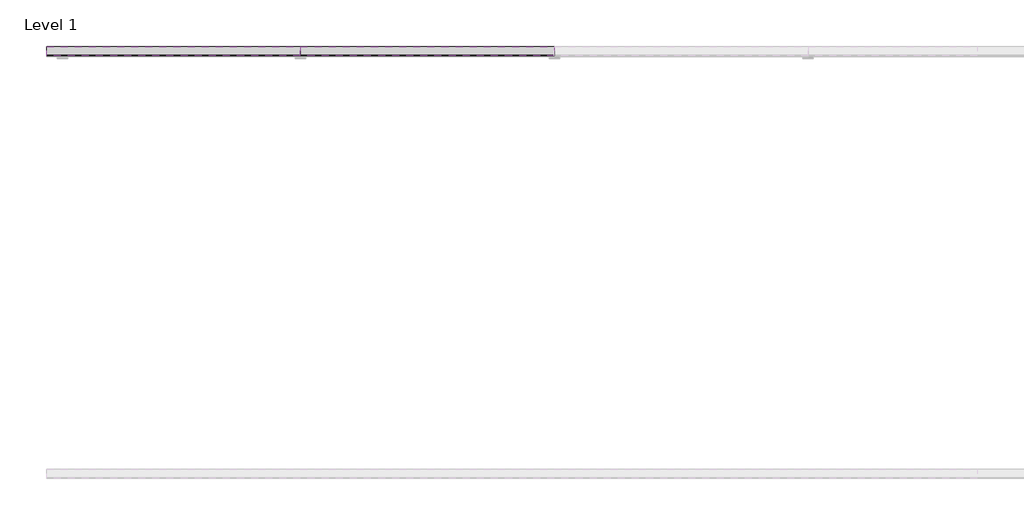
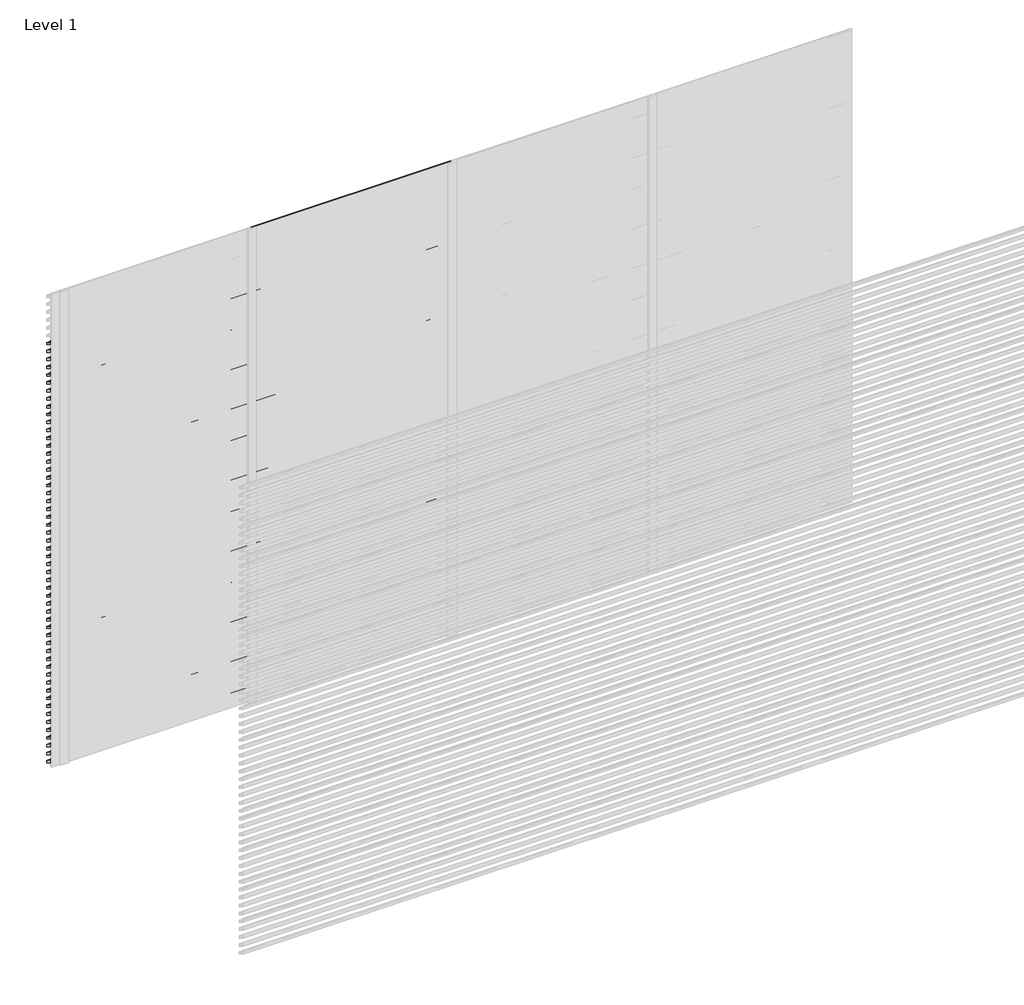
# One storey, part 14 of 16: 99 proxies.
"""IFC4 building model written with IfcOpenShell, lengths in millimetres."""

from ifc_helpers import new_model, si_unit, frame, origin, place, context, project, spatial, polyline, outline, extrude, element, save

model = new_model("IFC4")

# Units and contexts
model_context = context("Model", 3, world=origin())
ifc_project = project(units=[si_unit("LENGTHUNIT", "METRE", prefix="MILLI")], contexts=[model_context])

# Site, building, storey
site = spatial("IfcSite", under=ifc_project)
building = spatial("IfcBuilding", under=site)
storey = spatial("IfcBuildingStorey", under=building, Name="Level 1", Elevation=0.0)

# Proxies
placement = place(None, origin())
element("IfcBuildingElementProxy", 1, Name="Wall Sweeps", at=placement, inside=storey, context=model_context, shape_type="SweptSolid", body=[
    extrude(outline(polyline([(5.0, 2700.0), (5.0, 2689.6352854), (46.0, 2665.0), (46.0, 2650.0), (3.0, 2675.8370066), (3.0, 2700.0), (5.0, 2700.0)])), frame((0.0, 0.0, 0.0), z_axis=(1.0, 0.0, 0.0), x_axis=(0.0, 1.0, 0.0)), (0.0, 0.0, 1.0), 1200.0),
])
element("IfcBuildingElementProxy", 2, Name="Wall Sweeps", at=placement, inside=storey, context=model_context, shape_type="SweptSolid", body=[
    extrude(outline(polyline([(5.0, 2650.0), (5.0, 2639.6352854), (46.0, 2615.0), (46.0, 2600.0), (3.0, 2625.8370066), (3.0, 2650.0), (5.0, 2650.0)])), frame((0.0, 0.0, 0.0), z_axis=(1.0, 0.0, 0.0), x_axis=(0.0, 1.0, 0.0)), (0.0, 0.0, 1.0), 1200.0),
])
element("IfcBuildingElementProxy", 3, Name="Wall Sweeps", at=placement, inside=storey, context=model_context, shape_type="SweptSolid", body=[
    extrude(outline(polyline([(5.0, 2600.0), (5.0, 2589.6352854), (46.0, 2565.0), (46.0, 2550.0), (3.0, 2575.8370066), (3.0, 2600.0), (5.0, 2600.0)])), frame((0.0, 0.0, 0.0), z_axis=(1.0, 0.0, 0.0), x_axis=(0.0, 1.0, 0.0)), (0.0, 0.0, 1.0), 1200.0),
])
element("IfcBuildingElementProxy", 4, Name="Wall Sweeps", at=placement, inside=storey, context=model_context, shape_type="SweptSolid", body=[
    extrude(outline(polyline([(5.0, 2550.0), (5.0, 2539.6352854), (46.0, 2515.0), (46.0, 2500.0), (3.0, 2525.8370066), (3.0, 2550.0), (5.0, 2550.0)])), frame((0.0, 0.0, 0.0), z_axis=(1.0, 0.0, 0.0), x_axis=(0.0, 1.0, 0.0)), (0.0, 0.0, 1.0), 1200.0),
])
element("IfcBuildingElementProxy", 5, Name="Wall Sweeps", at=placement, inside=storey, context=model_context, shape_type="SweptSolid", body=[
    extrude(outline(polyline([(5.0, 2500.0), (5.0, 2489.6352854), (46.0, 2465.0), (46.0, 2450.0), (3.0, 2475.8370066), (3.0, 2500.0), (5.0, 2500.0)])), frame((0.0, 0.0, 0.0), z_axis=(1.0, 0.0, 0.0), x_axis=(0.0, 1.0, 0.0)), (0.0, 0.0, 1.0), 1200.0),
])
element("IfcBuildingElementProxy", 6, Name="Wall Sweeps", at=placement, inside=storey, context=model_context, shape_type="SweptSolid", body=[
    extrude(outline(polyline([(5.0, 2450.0), (5.0, 2439.6352854), (46.0, 2415.0), (46.0, 2400.0), (3.0, 2425.8370066), (3.0, 2450.0), (5.0, 2450.0)])), frame((0.0, 0.0, 0.0), z_axis=(1.0, 0.0, 0.0), x_axis=(0.0, 1.0, 0.0)), (0.0, 0.0, 1.0), 1200.0),
])
element("IfcBuildingElementProxy", 7, Name="Wall Sweeps", at=placement, inside=storey, context=model_context, shape_type="SweptSolid", body=[
    extrude(outline(polyline([(5.0, 2400.0), (5.0, 2389.6352854), (46.0, 2365.0), (46.0, 2350.0), (3.0, 2375.8370066), (3.0, 2400.0), (5.0, 2400.0)])), frame((0.0, 0.0, 0.0), z_axis=(1.0, 0.0, 0.0), x_axis=(0.0, 1.0, 0.0)), (0.0, 0.0, 1.0), 1200.0),
])
element("IfcBuildingElementProxy", 8, Name="Wall Sweeps", at=placement, inside=storey, context=model_context, shape_type="SweptSolid", body=[
    extrude(outline(polyline([(5.0, 2350.0), (5.0, 2339.6352854), (46.0, 2315.0), (46.0, 2300.0), (3.0, 2325.8370066), (3.0, 2350.0), (5.0, 2350.0)])), frame((0.0, 0.0, 0.0), z_axis=(1.0, 0.0, 0.0), x_axis=(0.0, 1.0, 0.0)), (0.0, 0.0, 1.0), 1200.0),
])
element("IfcBuildingElementProxy", 9, Name="Wall Sweeps", at=placement, inside=storey, context=model_context, shape_type="SweptSolid", body=[
    extrude(outline(polyline([(5.0, 2300.0), (5.0, 2289.6352854), (46.0, 2265.0), (46.0, 2250.0), (3.0, 2275.8370066), (3.0, 2300.0), (5.0, 2300.0)])), frame((0.0, 0.0, 0.0), z_axis=(1.0, 0.0, 0.0), x_axis=(0.0, 1.0, 0.0)), (0.0, 0.0, 1.0), 1200.0),
])
element("IfcBuildingElementProxy", 10, Name="Wall Sweeps", at=placement, inside=storey, context=model_context, shape_type="SweptSolid", body=[
    extrude(outline(polyline([(5.0, 2250.0), (5.0, 2239.6352854), (46.0, 2215.0), (46.0, 2200.0), (3.0, 2225.8370066), (3.0, 2250.0), (5.0, 2250.0)])), frame((0.0, 0.0, 0.0), z_axis=(1.0, 0.0, 0.0), x_axis=(0.0, 1.0, 0.0)), (0.0, 0.0, 1.0), 1200.0),
])
element("IfcBuildingElementProxy", 11, Name="Wall Sweeps", at=placement, inside=storey, context=model_context, shape_type="SweptSolid", body=[
    extrude(outline(polyline([(5.0, 2200.0), (5.0, 2189.6352854), (46.0, 2165.0), (46.0, 2150.0), (3.0, 2175.8370066), (3.0, 2200.0), (5.0, 2200.0)])), frame((0.0, 0.0, 0.0), z_axis=(1.0, 0.0, 0.0), x_axis=(0.0, 1.0, 0.0)), (0.0, 0.0, 1.0), 1200.0),
])
element("IfcBuildingElementProxy", 12, Name="Wall Sweeps", at=placement, inside=storey, context=model_context, shape_type="SweptSolid", body=[
    extrude(outline(polyline([(5.0, 2150.0), (5.0, 2139.6352854), (46.0, 2115.0), (46.0, 2100.0), (3.0, 2125.8370066), (3.0, 2150.0), (5.0, 2150.0)])), frame((0.0, 0.0, 0.0), z_axis=(1.0, 0.0, 0.0), x_axis=(0.0, 1.0, 0.0)), (0.0, 0.0, 1.0), 1200.0),
])
element("IfcBuildingElementProxy", 13, Name="Wall Sweeps", at=placement, inside=storey, context=model_context, shape_type="SweptSolid", body=[
    extrude(outline(polyline([(5.0, 2100.0), (5.0, 2089.6352854), (46.0, 2065.0), (46.0, 2050.0), (3.0, 2075.8370066), (3.0, 2100.0), (5.0, 2100.0)])), frame((0.0, 0.0, 0.0), z_axis=(1.0, 0.0, 0.0), x_axis=(0.0, 1.0, 0.0)), (0.0, 0.0, 1.0), 1200.0),
])
element("IfcBuildingElementProxy", 14, Name="Wall Sweeps", at=placement, inside=storey, context=model_context, shape_type="SweptSolid", body=[
    extrude(outline(polyline([(5.0, 2050.0), (5.0, 2039.6352854), (46.0, 2015.0), (46.0, 2000.0), (3.0, 2025.8370066), (3.0, 2050.0), (5.0, 2050.0)])), frame((0.0, 0.0, 0.0), z_axis=(1.0, 0.0, 0.0), x_axis=(0.0, 1.0, 0.0)), (0.0, 0.0, 1.0), 1200.0),
])
element("IfcBuildingElementProxy", 15, Name="Wall Sweeps", at=placement, inside=storey, context=model_context, shape_type="SweptSolid", body=[
    extrude(outline(polyline([(5.0, 2000.0), (5.0, 1989.6352854), (46.0, 1965.0), (46.0, 1950.0), (3.0, 1975.8370066), (3.0, 2000.0), (5.0, 2000.0)])), frame((0.0, 0.0, 0.0), z_axis=(1.0, 0.0, 0.0), x_axis=(0.0, 1.0, 0.0)), (0.0, 0.0, 1.0), 1200.0),
])
element("IfcBuildingElementProxy", 16, Name="Wall Sweeps", at=placement, inside=storey, context=model_context, shape_type="SweptSolid", body=[
    extrude(outline(polyline([(5.0, 1950.0), (5.0, 1939.6352854), (46.0, 1915.0), (46.0, 1900.0), (3.0, 1925.8370066), (3.0, 1950.0), (5.0, 1950.0)])), frame((0.0, 0.0, 0.0), z_axis=(1.0, 0.0, 0.0), x_axis=(0.0, 1.0, 0.0)), (0.0, 0.0, 1.0), 1200.0),
])
element("IfcBuildingElementProxy", 17, Name="Wall Sweeps", at=placement, inside=storey, context=model_context, shape_type="SweptSolid", body=[
    extrude(outline(polyline([(5.0, 1900.0), (5.0, 1889.6352854), (46.0, 1865.0), (46.0, 1850.0), (3.0, 1875.8370066), (3.0, 1900.0), (5.0, 1900.0)])), frame((0.0, 0.0, 0.0), z_axis=(1.0, 0.0, 0.0), x_axis=(0.0, 1.0, 0.0)), (0.0, 0.0, 1.0), 1200.0),
])
element("IfcBuildingElementProxy", 18, Name="Wall Sweeps", at=placement, inside=storey, context=model_context, shape_type="SweptSolid", body=[
    extrude(outline(polyline([(5.0, 1850.0), (5.0, 1839.6352854), (46.0, 1815.0), (46.0, 1800.0), (3.0, 1825.8370066), (3.0, 1850.0), (5.0, 1850.0)])), frame((0.0, 0.0, 0.0), z_axis=(1.0, 0.0, 0.0), x_axis=(0.0, 1.0, 0.0)), (0.0, 0.0, 1.0), 1200.0),
])
element("IfcBuildingElementProxy", 19, Name="Wall Sweeps", at=placement, inside=storey, context=model_context, shape_type="SweptSolid", body=[
    extrude(outline(polyline([(5.0, 1800.0), (5.0, 1789.6352854), (46.0, 1765.0), (46.0, 1750.0), (3.0, 1775.8370066), (3.0, 1800.0), (5.0, 1800.0)])), frame((0.0, 0.0, 0.0), z_axis=(1.0, 0.0, 0.0), x_axis=(0.0, 1.0, 0.0)), (0.0, 0.0, 1.0), 1200.0),
])
element("IfcBuildingElementProxy", 20, Name="Wall Sweeps", at=placement, inside=storey, context=model_context, shape_type="SweptSolid", body=[
    extrude(outline(polyline([(5.0, 1750.0), (5.0, 1739.6352854), (46.0, 1715.0), (46.0, 1700.0), (3.0, 1725.8370066), (3.0, 1750.0), (5.0, 1750.0)])), frame((0.0, 0.0, 0.0), z_axis=(1.0, 0.0, 0.0), x_axis=(0.0, 1.0, 0.0)), (0.0, 0.0, 1.0), 1200.0),
])
element("IfcBuildingElementProxy", 21, Name="Wall Sweeps", at=placement, inside=storey, context=model_context, shape_type="SweptSolid", body=[
    extrude(outline(polyline([(5.0, 1700.0), (5.0, 1689.6352854), (46.0, 1665.0), (46.0, 1650.0), (3.0, 1675.8370066), (3.0, 1700.0), (5.0, 1700.0)])), frame((0.0, 0.0, 0.0), z_axis=(1.0, 0.0, 0.0), x_axis=(0.0, 1.0, 0.0)), (0.0, 0.0, 1.0), 1200.0),
])
element("IfcBuildingElementProxy", 22, Name="Wall Sweeps", at=placement, inside=storey, context=model_context, shape_type="SweptSolid", body=[
    extrude(outline(polyline([(5.0, 1650.0), (5.0, 1639.6352854), (46.0, 1615.0), (46.0, 1600.0), (3.0, 1625.8370066), (3.0, 1650.0), (5.0, 1650.0)])), frame((0.0, 0.0, 0.0), z_axis=(1.0, 0.0, 0.0), x_axis=(0.0, 1.0, 0.0)), (0.0, 0.0, 1.0), 1200.0),
])
element("IfcBuildingElementProxy", 23, Name="Wall Sweeps", at=placement, inside=storey, context=model_context, shape_type="SweptSolid", body=[
    extrude(outline(polyline([(5.0, 1600.0), (5.0, 1589.6352854), (46.0, 1565.0), (46.0, 1550.0), (3.0, 1575.8370066), (3.0, 1600.0), (5.0, 1600.0)])), frame((0.0, 0.0, 0.0), z_axis=(1.0, 0.0, 0.0), x_axis=(0.0, 1.0, 0.0)), (0.0, 0.0, 1.0), 1200.0),
])
element("IfcBuildingElementProxy", 24, Name="Wall Sweeps", at=placement, inside=storey, context=model_context, shape_type="SweptSolid", body=[
    extrude(outline(polyline([(5.0, 1550.0), (5.0, 1539.6352854), (46.0, 1515.0), (46.0, 1500.0), (3.0, 1525.8370066), (3.0, 1550.0), (5.0, 1550.0)])), frame((0.0, 0.0, 0.0), z_axis=(1.0, 0.0, 0.0), x_axis=(0.0, 1.0, 0.0)), (0.0, 0.0, 1.0), 1200.0),
])
element("IfcBuildingElementProxy", 25, Name="Wall Sweeps", at=placement, inside=storey, context=model_context, shape_type="SweptSolid", body=[
    extrude(outline(polyline([(5.0, 1500.0), (5.0, 1489.6352854), (46.0, 1465.0), (46.0, 1450.0), (3.0, 1475.8370066), (3.0, 1500.0), (5.0, 1500.0)])), frame((0.0, 0.0, 0.0), z_axis=(1.0, 0.0, 0.0), x_axis=(0.0, 1.0, 0.0)), (0.0, 0.0, 1.0), 1200.0),
])
element("IfcBuildingElementProxy", 26, Name="Wall Sweeps", at=placement, inside=storey, context=model_context, shape_type="SweptSolid", body=[
    extrude(outline(polyline([(5.0, 1450.0), (5.0, 1439.6352854), (46.0, 1415.0), (46.0, 1400.0), (3.0, 1425.8370066), (3.0, 1450.0), (5.0, 1450.0)])), frame((0.0, 0.0, 0.0), z_axis=(1.0, 0.0, 0.0), x_axis=(0.0, 1.0, 0.0)), (0.0, 0.0, 1.0), 1200.0),
])
element("IfcBuildingElementProxy", 27, Name="Wall Sweeps", at=placement, inside=storey, context=model_context, shape_type="SweptSolid", body=[
    extrude(outline(polyline([(5.0, 1400.0), (5.0, 1389.6352854), (46.0, 1365.0), (46.0, 1350.0), (3.0, 1375.8370066), (3.0, 1400.0), (5.0, 1400.0)])), frame((0.0, 0.0, 0.0), z_axis=(1.0, 0.0, 0.0), x_axis=(0.0, 1.0, 0.0)), (0.0, 0.0, 1.0), 1200.0),
])
element("IfcBuildingElementProxy", 28, Name="Wall Sweeps", at=placement, inside=storey, context=model_context, shape_type="SweptSolid", body=[
    extrude(outline(polyline([(5.0, 1350.0), (5.0, 1339.6352854), (46.0, 1315.0), (46.0, 1300.0), (3.0, 1325.8370066), (3.0, 1350.0), (5.0, 1350.0)])), frame((0.0, 0.0, 0.0), z_axis=(1.0, 0.0, 0.0), x_axis=(0.0, 1.0, 0.0)), (0.0, 0.0, 1.0), 1200.0),
])
element("IfcBuildingElementProxy", 29, Name="Wall Sweeps", at=placement, inside=storey, context=model_context, shape_type="SweptSolid", body=[
    extrude(outline(polyline([(5.0, 1300.0), (5.0, 1289.6352854), (46.0, 1265.0), (46.0, 1250.0), (3.0, 1275.8370066), (3.0, 1300.0), (5.0, 1300.0)])), frame((0.0, 0.0, 0.0), z_axis=(1.0, 0.0, 0.0), x_axis=(0.0, 1.0, 0.0)), (0.0, 0.0, 1.0), 1200.0),
])
element("IfcBuildingElementProxy", 30, Name="Wall Sweeps", at=placement, inside=storey, context=model_context, shape_type="SweptSolid", body=[
    extrude(outline(polyline([(5.0, 1250.0), (5.0, 1239.6352854), (46.0, 1215.0), (46.0, 1200.0), (3.0, 1225.8370066), (3.0, 1250.0), (5.0, 1250.0)])), frame((0.0, 0.0, 0.0), z_axis=(1.0, 0.0, 0.0), x_axis=(0.0, 1.0, 0.0)), (0.0, 0.0, 1.0), 1200.0),
])
element("IfcBuildingElementProxy", 31, Name="Wall Sweeps", at=placement, inside=storey, context=model_context, shape_type="SweptSolid", body=[
    extrude(outline(polyline([(5.0, 1200.0), (5.0, 1189.6352854), (46.0, 1165.0), (46.0, 1150.0), (3.0, 1175.8370066), (3.0, 1200.0), (5.0, 1200.0)])), frame((0.0, 0.0, 0.0), z_axis=(1.0, 0.0, 0.0), x_axis=(0.0, 1.0, 0.0)), (0.0, 0.0, 1.0), 1200.0),
])
element("IfcBuildingElementProxy", 32, Name="Wall Sweeps", at=placement, inside=storey, context=model_context, shape_type="SweptSolid", body=[
    extrude(outline(polyline([(5.0, 1150.0), (5.0, 1139.6352854), (46.0, 1115.0), (46.0, 1100.0), (3.0, 1125.8370066), (3.0, 1150.0), (5.0, 1150.0)])), frame((0.0, 0.0, 0.0), z_axis=(1.0, 0.0, 0.0), x_axis=(0.0, 1.0, 0.0)), (0.0, 0.0, 1.0), 1200.0),
])
element("IfcBuildingElementProxy", 33, Name="Wall Sweeps", at=placement, inside=storey, context=model_context, shape_type="SweptSolid", body=[
    extrude(outline(polyline([(5.0, 1100.0), (5.0, 1089.6352854), (46.0, 1065.0), (46.0, 1050.0), (3.0, 1075.8370066), (3.0, 1100.0), (5.0, 1100.0)])), frame((0.0, 0.0, 0.0), z_axis=(1.0, 0.0, 0.0), x_axis=(0.0, 1.0, 0.0)), (0.0, 0.0, 1.0), 1200.0),
])
element("IfcBuildingElementProxy", 34, Name="Wall Sweeps", at=placement, inside=storey, context=model_context, shape_type="SweptSolid", body=[
    extrude(outline(polyline([(5.0, 1050.0), (5.0, 1039.6352854), (46.0, 1015.0), (46.0, 1000.0), (3.0, 1025.8370066), (3.0, 1050.0), (5.0, 1050.0)])), frame((0.0, 0.0, 0.0), z_axis=(1.0, 0.0, 0.0), x_axis=(0.0, 1.0, 0.0)), (0.0, 0.0, 1.0), 1200.0),
])
element("IfcBuildingElementProxy", 35, Name="Wall Sweeps", at=placement, inside=storey, context=model_context, shape_type="SweptSolid", body=[
    extrude(outline(polyline([(5.0, 1000.0), (5.0, 989.6352854), (46.0, 965.0), (46.0, 950.0), (3.0, 975.8370066), (3.0, 1000.0), (5.0, 1000.0)])), frame((0.0, 0.0, 0.0), z_axis=(1.0, 0.0, 0.0), x_axis=(0.0, 1.0, 0.0)), (0.0, 0.0, 1.0), 1200.0),
])
element("IfcBuildingElementProxy", 36, Name="Wall Sweeps", at=placement, inside=storey, context=model_context, shape_type="SweptSolid", body=[
    extrude(outline(polyline([(5.0, 950.0), (5.0, 939.6352854), (46.0, 915.0), (46.0, 900.0), (3.0, 925.8370066), (3.0, 950.0), (5.0, 950.0)])), frame((0.0, 0.0, 0.0), z_axis=(1.0, 0.0, 0.0), x_axis=(0.0, 1.0, 0.0)), (0.0, 0.0, 1.0), 1200.0),
])
element("IfcBuildingElementProxy", 37, Name="Wall Sweeps", at=placement, inside=storey, context=model_context, shape_type="SweptSolid", body=[
    extrude(outline(polyline([(5.0, 900.0), (5.0, 889.6352854), (46.0, 865.0), (46.0, 850.0), (3.0, 875.8370066), (3.0, 900.0), (5.0, 900.0)])), frame((0.0, 0.0, 0.0), z_axis=(1.0, 0.0, 0.0), x_axis=(0.0, 1.0, 0.0)), (0.0, 0.0, 1.0), 1200.0),
])
element("IfcBuildingElementProxy", 38, Name="Wall Sweeps", at=placement, inside=storey, context=model_context, shape_type="SweptSolid", body=[
    extrude(outline(polyline([(5.0, 850.0), (5.0, 839.6352854), (46.0, 815.0), (46.0, 800.0), (3.0, 825.8370066), (3.0, 850.0), (5.0, 850.0)])), frame((0.0, 0.0, 0.0), z_axis=(1.0, 0.0, 0.0), x_axis=(0.0, 1.0, 0.0)), (0.0, 0.0, 1.0), 1200.0),
])
element("IfcBuildingElementProxy", 39, Name="Wall Sweeps", at=placement, inside=storey, context=model_context, shape_type="SweptSolid", body=[
    extrude(outline(polyline([(5.0, 800.0), (5.0, 789.6352854), (46.0, 765.0), (46.0, 750.0), (3.0, 775.8370066), (3.0, 800.0), (5.0, 800.0)])), frame((0.0, 0.0, 0.0), z_axis=(1.0, 0.0, 0.0), x_axis=(0.0, 1.0, 0.0)), (0.0, 0.0, 1.0), 1200.0),
])
element("IfcBuildingElementProxy", 40, Name="Wall Sweeps", at=placement, inside=storey, context=model_context, shape_type="SweptSolid", body=[
    extrude(outline(polyline([(5.0, 750.0), (5.0, 739.6352854), (46.0, 715.0), (46.0, 700.0), (3.0, 725.8370066), (3.0, 750.0), (5.0, 750.0)])), frame((0.0, 0.0, 0.0), z_axis=(1.0, 0.0, 0.0), x_axis=(0.0, 1.0, 0.0)), (0.0, 0.0, 1.0), 1200.0),
])
element("IfcBuildingElementProxy", 41, Name="Wall Sweeps", at=placement, inside=storey, context=model_context, shape_type="SweptSolid", body=[
    extrude(outline(polyline([(5.0, 700.0), (5.0, 689.6352854), (46.0, 665.0), (46.0, 650.0), (3.0, 675.8370066), (3.0, 700.0), (5.0, 700.0)])), frame((0.0, 0.0, 0.0), z_axis=(1.0, 0.0, 0.0), x_axis=(0.0, 1.0, 0.0)), (0.0, 0.0, 1.0), 1200.0),
])
element("IfcBuildingElementProxy", 42, Name="Wall Sweeps", at=placement, inside=storey, context=model_context, shape_type="SweptSolid", body=[
    extrude(outline(polyline([(5.0, 650.0), (5.0, 639.6352854), (46.0, 615.0), (46.0, 600.0), (3.0, 625.8370066), (3.0, 650.0), (5.0, 650.0)])), frame((0.0, 0.0, 0.0), z_axis=(1.0, 0.0, 0.0), x_axis=(0.0, 1.0, 0.0)), (0.0, 0.0, 1.0), 1200.0),
])
element("IfcBuildingElementProxy", 43, Name="Wall Sweeps", at=placement, inside=storey, context=model_context, shape_type="SweptSolid", body=[
    extrude(outline(polyline([(5.0, 600.0), (5.0, 589.6352854), (46.0, 565.0), (46.0, 550.0), (3.0, 575.8370066), (3.0, 600.0), (5.0, 600.0)])), frame((0.0, 0.0, 0.0), z_axis=(1.0, 0.0, 0.0), x_axis=(0.0, 1.0, 0.0)), (0.0, 0.0, 1.0), 1200.0),
])
element("IfcBuildingElementProxy", 44, Name="Wall Sweeps", at=placement, inside=storey, context=model_context, shape_type="SweptSolid", body=[
    extrude(outline(polyline([(5.0, 550.0), (5.0, 539.6352854), (46.0, 515.0), (46.0, 500.0), (3.0, 525.8370066), (3.0, 550.0), (5.0, 550.0)])), frame((0.0, 0.0, 0.0), z_axis=(1.0, 0.0, 0.0), x_axis=(0.0, 1.0, 0.0)), (0.0, 0.0, 1.0), 1200.0),
])
element("IfcBuildingElementProxy", 45, Name="Wall Sweeps", at=placement, inside=storey, context=model_context, shape_type="SweptSolid", body=[
    extrude(outline(polyline([(5.0, 500.0), (5.0, 489.6352854), (46.0, 465.0), (46.0, 450.0), (3.0, 475.8370066), (3.0, 500.0), (5.0, 500.0)])), frame((0.0, 0.0, 0.0), z_axis=(1.0, 0.0, 0.0), x_axis=(0.0, 1.0, 0.0)), (0.0, 0.0, 1.0), 1200.0),
])
element("IfcBuildingElementProxy", 46, Name="Wall Sweeps", at=placement, inside=storey, context=model_context, shape_type="SweptSolid", body=[
    extrude(outline(polyline([(5.0, 450.0), (5.0, 439.6352854), (46.0, 415.0), (46.0, 400.0), (3.0, 425.8370066), (3.0, 450.0), (5.0, 450.0)])), frame((0.0, 0.0, 0.0), z_axis=(1.0, 0.0, 0.0), x_axis=(0.0, 1.0, 0.0)), (0.0, 0.0, 1.0), 1200.0),
])
element("IfcBuildingElementProxy", 47, Name="Wall Sweeps", at=placement, inside=storey, context=model_context, shape_type="SweptSolid", body=[
    extrude(outline(polyline([(5.0, 400.0), (5.0, 389.6352854), (46.0, 365.0), (46.0, 350.0), (3.0, 375.8370066), (3.0, 400.0), (5.0, 400.0)])), frame((0.0, 0.0, 0.0), z_axis=(1.0, 0.0, 0.0), x_axis=(0.0, 1.0, 0.0)), (0.0, 0.0, 1.0), 1200.0),
])
element("IfcBuildingElementProxy", 48, Name="Wall Sweeps", at=placement, inside=storey, context=model_context, shape_type="SweptSolid", body=[
    extrude(outline(polyline([(5.0, 350.0), (5.0, 339.6352854), (46.0, 315.0), (46.0, 300.0), (3.0, 325.8370066), (3.0, 350.0), (5.0, 350.0)])), frame((0.0, 0.0, 0.0), z_axis=(1.0, 0.0, 0.0), x_axis=(0.0, 1.0, 0.0)), (0.0, 0.0, 1.0), 1200.0),
])
element("IfcBuildingElementProxy", 49, Name="Wall Sweeps", at=placement, inside=storey, context=model_context, shape_type="SweptSolid", body=[
    extrude(outline(polyline([(5.0, 300.0), (5.0, 289.6352854), (46.0, 265.0), (46.0, 250.0), (3.0, 275.8370066), (3.0, 300.0), (5.0, 300.0)])), frame((0.0, 0.0, 0.0), z_axis=(1.0, 0.0, 0.0), x_axis=(0.0, 1.0, 0.0)), (0.0, 0.0, 1.0), 1200.0),
])
element("IfcBuildingElementProxy", 50, Name="Wall Sweeps", at=placement, inside=storey, context=model_context, shape_type="SweptSolid", body=[
    extrude(outline(polyline([(5.0, 250.0), (5.0, 239.6352854), (46.0, 215.0), (46.0, 200.0), (3.0, 225.8370066), (3.0, 250.0), (5.0, 250.0)])), frame((0.0, 0.0, 0.0), z_axis=(1.0, 0.0, 0.0), x_axis=(0.0, 1.0, 0.0)), (0.0, 0.0, 1.0), 1200.0),
])
element("IfcBuildingElementProxy", 51, Name="Wall Sweeps", at=placement, inside=storey, context=model_context, shape_type="SweptSolid", body=[
    extrude(outline(polyline([(5.0, 200.0), (5.0, 189.6352854), (46.0, 165.0), (46.0, 150.0), (3.0, 175.8370066), (3.0, 200.0), (5.0, 200.0)])), frame((0.0, 0.0, 0.0), z_axis=(1.0, 0.0, 0.0), x_axis=(0.0, 1.0, 0.0)), (0.0, 0.0, 1.0), 1200.0),
])
element("IfcBuildingElementProxy", 52, Name="Wall Sweeps", at=placement, inside=storey, context=model_context, shape_type="SweptSolid", body=[
    extrude(outline(polyline([(5.0, 150.0), (5.0, 139.6352854), (46.0, 115.0), (46.0, 100.0), (3.0, 125.8370066), (3.0, 150.0), (5.0, 150.0)])), frame((0.0, 0.0, 0.0), z_axis=(1.0, 0.0, 0.0), x_axis=(0.0, 1.0, 0.0)), (0.0, 0.0, 1.0), 1200.0),
])
element("IfcBuildingElementProxy", 53, Name="Wall Sweeps", at=placement, inside=storey, context=model_context, shape_type="SweptSolid", body=[
    extrude(outline(polyline([(5.0, 100.0), (5.0, 89.6352854), (46.0, 65.0), (46.0, 50.0), (3.0, 75.8370066), (3.0, 100.0), (5.0, 100.0)])), frame((0.0, 0.0, 0.0), z_axis=(1.0, 0.0, 0.0), x_axis=(0.0, 1.0, 0.0)), (0.0, 0.0, 1.0), 1200.0),
])
element("IfcBuildingElementProxy", 54, Name="Wall Sweeps", at=placement, inside=storey, context=model_context, shape_type="SweptSolid", body=[
    extrude(outline(polyline([(5.0, 50.0), (5.0, 39.6352854), (46.0, 15.0), (46.0, 0.0), (3.0, 25.8370066), (3.0, 50.0), (5.0, 50.0)])), frame((0.0, 0.0, 0.0), z_axis=(1.0, 0.0, 0.0), x_axis=(0.0, 1.0, 0.0)), (0.0, 0.0, 1.0), 1200.0),
])
element("IfcBuildingElementProxy", 55, Name="Wall Sweeps", at=placement, inside=storey, context=model_context, shape_type="SweptSolid", body=[
    extrude(outline(polyline([(5.0, 3000.0), (5.0, 2989.6352854), (46.0, 2965.0), (46.0, 2950.0), (3.0, 2975.8370066), (3.0, 3000.0), (5.0, 3000.0)])), frame((1200.0, 0.0, 0.0), z_axis=(1.0, 0.0, 0.0), x_axis=(0.0, 1.0, 0.0)), (0.0, 0.0, 1.0), 1200.0),
])
element("IfcBuildingElementProxy", 56, Name="Wall Sweeps", at=placement, inside=storey, context=model_context, shape_type="SweptSolid", body=[
    extrude(outline(polyline([(5.0, 2950.0), (5.0, 2939.6352854), (46.0, 2915.0), (46.0, 2900.0), (3.0, 2925.8370066), (3.0, 2950.0), (5.0, 2950.0)])), frame((1200.0, 0.0, 0.0), z_axis=(1.0, 0.0, 0.0), x_axis=(0.0, 1.0, 0.0)), (0.0, 0.0, 1.0), 1200.0),
])
element("IfcBuildingElementProxy", 57, Name="Wall Sweeps", at=placement, inside=storey, context=model_context, shape_type="SweptSolid", body=[
    extrude(outline(polyline([(5.0, 2900.0), (5.0, 2889.6352854), (46.0, 2865.0), (46.0, 2850.0), (3.0, 2875.8370066), (3.0, 2900.0), (5.0, 2900.0)])), frame((1200.0, 0.0, 0.0), z_axis=(1.0, 0.0, 0.0), x_axis=(0.0, 1.0, 0.0)), (0.0, 0.0, 1.0), 1200.0),
])
element("IfcBuildingElementProxy", 58, Name="Wall Sweeps", at=placement, inside=storey, context=model_context, shape_type="SweptSolid", body=[
    extrude(outline(polyline([(5.0, 2850.0), (5.0, 2839.6352854), (46.0, 2815.0), (46.0, 2800.0), (3.0, 2825.8370066), (3.0, 2850.0), (5.0, 2850.0)])), frame((1200.0, 0.0, 0.0), z_axis=(1.0, 0.0, 0.0), x_axis=(0.0, 1.0, 0.0)), (0.0, 0.0, 1.0), 1200.0),
])
element("IfcBuildingElementProxy", 59, Name="Wall Sweeps", at=placement, inside=storey, context=model_context, shape_type="SweptSolid", body=[
    extrude(outline(polyline([(5.0, 2800.0), (5.0, 2789.6352854), (46.0, 2765.0), (46.0, 2750.0), (3.0, 2775.8370066), (3.0, 2800.0), (5.0, 2800.0)])), frame((1200.0, 0.0, 0.0), z_axis=(1.0, 0.0, 0.0), x_axis=(0.0, 1.0, 0.0)), (0.0, 0.0, 1.0), 1200.0),
])
element("IfcBuildingElementProxy", 60, Name="Wall Sweeps", at=placement, inside=storey, context=model_context, shape_type="SweptSolid", body=[
    extrude(outline(polyline([(5.0, 2750.0), (5.0, 2739.6352854), (46.0, 2715.0), (46.0, 2700.0), (3.0, 2725.8370066), (3.0, 2750.0), (5.0, 2750.0)])), frame((1200.0, 0.0, 0.0), z_axis=(1.0, 0.0, 0.0), x_axis=(0.0, 1.0, 0.0)), (0.0, 0.0, 1.0), 1200.0),
])
element("IfcBuildingElementProxy", 61, Name="Wall Sweeps", at=placement, inside=storey, context=model_context, shape_type="SweptSolid", body=[
    extrude(outline(polyline([(5.0, 2700.0), (5.0, 2689.6352854), (46.0, 2665.0), (46.0, 2650.0), (3.0, 2675.8370066), (3.0, 2700.0), (5.0, 2700.0)])), frame((1200.0, 0.0, 0.0), z_axis=(1.0, 0.0, 0.0), x_axis=(0.0, 1.0, 0.0)), (0.0, 0.0, 1.0), 1200.0),
])
element("IfcBuildingElementProxy", 62, Name="Wall Sweeps", at=placement, inside=storey, context=model_context, shape_type="SweptSolid", body=[
    extrude(outline(polyline([(5.0, 2650.0), (5.0, 2639.6352854), (46.0, 2615.0), (46.0, 2600.0), (3.0, 2625.8370066), (3.0, 2650.0), (5.0, 2650.0)])), frame((1200.0, 0.0, 0.0), z_axis=(1.0, 0.0, 0.0), x_axis=(0.0, 1.0, 0.0)), (0.0, 0.0, 1.0), 1200.0),
])
element("IfcBuildingElementProxy", 63, Name="Wall Sweeps", at=placement, inside=storey, context=model_context, shape_type="SweptSolid", body=[
    extrude(outline(polyline([(5.0, 2600.0), (5.0, 2589.6352854), (46.0, 2565.0), (46.0, 2550.0), (3.0, 2575.8370066), (3.0, 2600.0), (5.0, 2600.0)])), frame((1200.0, 0.0, 0.0), z_axis=(1.0, 0.0, 0.0), x_axis=(0.0, 1.0, 0.0)), (0.0, 0.0, 1.0), 1200.0),
])
element("IfcBuildingElementProxy", 64, Name="Wall Sweeps", at=placement, inside=storey, context=model_context, shape_type="SweptSolid", body=[
    extrude(outline(polyline([(5.0, 2550.0), (5.0, 2539.6352854), (46.0, 2515.0), (46.0, 2500.0), (3.0, 2525.8370066), (3.0, 2550.0), (5.0, 2550.0)])), frame((1200.0, 0.0, 0.0), z_axis=(1.0, 0.0, 0.0), x_axis=(0.0, 1.0, 0.0)), (0.0, 0.0, 1.0), 1200.0),
])
element("IfcBuildingElementProxy", 65, Name="Wall Sweeps", at=placement, inside=storey, context=model_context, shape_type="SweptSolid", body=[
    extrude(outline(polyline([(5.0, 2500.0), (5.0, 2489.6352854), (46.0, 2465.0), (46.0, 2450.0), (3.0, 2475.8370066), (3.0, 2500.0), (5.0, 2500.0)])), frame((1200.0, 0.0, 0.0), z_axis=(1.0, 0.0, 0.0), x_axis=(0.0, 1.0, 0.0)), (0.0, 0.0, 1.0), 1200.0),
])
element("IfcBuildingElementProxy", 66, Name="Wall Sweeps", at=placement, inside=storey, context=model_context, shape_type="SweptSolid", body=[
    extrude(outline(polyline([(5.0, 2450.0), (5.0, 2439.6352854), (46.0, 2415.0), (46.0, 2400.0), (3.0, 2425.8370066), (3.0, 2450.0), (5.0, 2450.0)])), frame((1200.0, 0.0, 0.0), z_axis=(1.0, 0.0, 0.0), x_axis=(0.0, 1.0, 0.0)), (0.0, 0.0, 1.0), 1200.0),
])
element("IfcBuildingElementProxy", 67, Name="Wall Sweeps", at=placement, inside=storey, context=model_context, shape_type="SweptSolid", body=[
    extrude(outline(polyline([(5.0, 2400.0), (5.0, 2389.6352854), (46.0, 2365.0), (46.0, 2350.0), (3.0, 2375.8370066), (3.0, 2400.0), (5.0, 2400.0)])), frame((1200.0, 0.0, 0.0), z_axis=(1.0, 0.0, 0.0), x_axis=(0.0, 1.0, 0.0)), (0.0, 0.0, 1.0), 1200.0),
])
element("IfcBuildingElementProxy", 68, Name="Wall Sweeps", at=placement, inside=storey, context=model_context, shape_type="SweptSolid", body=[
    extrude(outline(polyline([(5.0, 2350.0), (5.0, 2339.6352854), (46.0, 2315.0), (46.0, 2300.0), (3.0, 2325.8370066), (3.0, 2350.0), (5.0, 2350.0)])), frame((1200.0, 0.0, 0.0), z_axis=(1.0, 0.0, 0.0), x_axis=(0.0, 1.0, 0.0)), (0.0, 0.0, 1.0), 1200.0),
])
element("IfcBuildingElementProxy", 69, Name="Wall Sweeps", at=placement, inside=storey, context=model_context, shape_type="SweptSolid", body=[
    extrude(outline(polyline([(5.0, 2300.0), (5.0, 2289.6352854), (46.0, 2265.0), (46.0, 2250.0), (3.0, 2275.8370066), (3.0, 2300.0), (5.0, 2300.0)])), frame((1200.0, 0.0, 0.0), z_axis=(1.0, 0.0, 0.0), x_axis=(0.0, 1.0, 0.0)), (0.0, 0.0, 1.0), 1200.0),
])
element("IfcBuildingElementProxy", 70, Name="Wall Sweeps", at=placement, inside=storey, context=model_context, shape_type="SweptSolid", body=[
    extrude(outline(polyline([(5.0, 2250.0), (5.0, 2239.6352854), (46.0, 2215.0), (46.0, 2200.0), (3.0, 2225.8370066), (3.0, 2250.0), (5.0, 2250.0)])), frame((1200.0, 0.0, 0.0), z_axis=(1.0, 0.0, 0.0), x_axis=(0.0, 1.0, 0.0)), (0.0, 0.0, 1.0), 1200.0),
])
element("IfcBuildingElementProxy", 71, Name="Wall Sweeps", at=placement, inside=storey, context=model_context, shape_type="SweptSolid", body=[
    extrude(outline(polyline([(5.0, 2200.0), (5.0, 2189.6352854), (46.0, 2165.0), (46.0, 2150.0), (3.0, 2175.8370066), (3.0, 2200.0), (5.0, 2200.0)])), frame((1200.0, 0.0, 0.0), z_axis=(1.0, 0.0, 0.0), x_axis=(0.0, 1.0, 0.0)), (0.0, 0.0, 1.0), 1200.0),
])
element("IfcBuildingElementProxy", 72, Name="Wall Sweeps", at=placement, inside=storey, context=model_context, shape_type="SweptSolid", body=[
    extrude(outline(polyline([(5.0, 2150.0), (5.0, 2139.6352854), (46.0, 2115.0), (46.0, 2100.0), (3.0, 2125.8370066), (3.0, 2150.0), (5.0, 2150.0)])), frame((1200.0, 0.0, 0.0), z_axis=(1.0, 0.0, 0.0), x_axis=(0.0, 1.0, 0.0)), (0.0, 0.0, 1.0), 1200.0),
])
element("IfcBuildingElementProxy", 73, Name="Wall Sweeps", at=placement, inside=storey, context=model_context, shape_type="SweptSolid", body=[
    extrude(outline(polyline([(5.0, 2100.0), (5.0, 2089.6352854), (46.0, 2065.0), (46.0, 2050.0), (3.0, 2075.8370066), (3.0, 2100.0), (5.0, 2100.0)])), frame((1200.0, 0.0, 0.0), z_axis=(1.0, 0.0, 0.0), x_axis=(0.0, 1.0, 0.0)), (0.0, 0.0, 1.0), 1200.0),
])
element("IfcBuildingElementProxy", 74, Name="Wall Sweeps", at=placement, inside=storey, context=model_context, shape_type="SweptSolid", body=[
    extrude(outline(polyline([(5.0, 2050.0), (5.0, 2039.6352854), (46.0, 2015.0), (46.0, 2000.0), (3.0, 2025.8370066), (3.0, 2050.0), (5.0, 2050.0)])), frame((1200.0, 0.0, 0.0), z_axis=(1.0, 0.0, 0.0), x_axis=(0.0, 1.0, 0.0)), (0.0, 0.0, 1.0), 1200.0),
])
element("IfcBuildingElementProxy", 75, Name="Wall Sweeps", at=placement, inside=storey, context=model_context, shape_type="SweptSolid", body=[
    extrude(outline(polyline([(5.0, 2000.0), (5.0, 1989.6352854), (46.0, 1965.0), (46.0, 1950.0), (3.0, 1975.8370066), (3.0, 2000.0), (5.0, 2000.0)])), frame((1200.0, 0.0, 0.0), z_axis=(1.0, 0.0, 0.0), x_axis=(0.0, 1.0, 0.0)), (0.0, 0.0, 1.0), 1200.0),
])
element("IfcBuildingElementProxy", 76, Name="Wall Sweeps", at=placement, inside=storey, context=model_context, shape_type="SweptSolid", body=[
    extrude(outline(polyline([(5.0, 1950.0), (5.0, 1939.6352854), (46.0, 1915.0), (46.0, 1900.0), (3.0, 1925.8370066), (3.0, 1950.0), (5.0, 1950.0)])), frame((1200.0, 0.0, 0.0), z_axis=(1.0, 0.0, 0.0), x_axis=(0.0, 1.0, 0.0)), (0.0, 0.0, 1.0), 1200.0),
])
element("IfcBuildingElementProxy", 77, Name="Wall Sweeps", at=placement, inside=storey, context=model_context, shape_type="SweptSolid", body=[
    extrude(outline(polyline([(5.0, 1900.0), (5.0, 1889.6352854), (46.0, 1865.0), (46.0, 1850.0), (3.0, 1875.8370066), (3.0, 1900.0), (5.0, 1900.0)])), frame((1200.0, 0.0, 0.0), z_axis=(1.0, 0.0, 0.0), x_axis=(0.0, 1.0, 0.0)), (0.0, 0.0, 1.0), 1200.0),
])
element("IfcBuildingElementProxy", 78, Name="Wall Sweeps", at=placement, inside=storey, context=model_context, shape_type="SweptSolid", body=[
    extrude(outline(polyline([(5.0, 1850.0), (5.0, 1839.6352854), (46.0, 1815.0), (46.0, 1800.0), (3.0, 1825.8370066), (3.0, 1850.0), (5.0, 1850.0)])), frame((1200.0, 0.0, 0.0), z_axis=(1.0, 0.0, 0.0), x_axis=(0.0, 1.0, 0.0)), (0.0, 0.0, 1.0), 1200.0),
])
element("IfcBuildingElementProxy", 79, Name="Wall Sweeps", at=placement, inside=storey, context=model_context, shape_type="SweptSolid", body=[
    extrude(outline(polyline([(5.0, 1800.0), (5.0, 1789.6352854), (46.0, 1765.0), (46.0, 1750.0), (3.0, 1775.8370066), (3.0, 1800.0), (5.0, 1800.0)])), frame((1200.0, 0.0, 0.0), z_axis=(1.0, 0.0, 0.0), x_axis=(0.0, 1.0, 0.0)), (0.0, 0.0, 1.0), 1200.0),
])
element("IfcBuildingElementProxy", 80, Name="Wall Sweeps", at=placement, inside=storey, context=model_context, shape_type="SweptSolid", body=[
    extrude(outline(polyline([(5.0, 1750.0), (5.0, 1739.6352854), (46.0, 1715.0), (46.0, 1700.0), (3.0, 1725.8370066), (3.0, 1750.0), (5.0, 1750.0)])), frame((1200.0, 0.0, 0.0), z_axis=(1.0, 0.0, 0.0), x_axis=(0.0, 1.0, 0.0)), (0.0, 0.0, 1.0), 1200.0),
])
element("IfcBuildingElementProxy", 81, Name="Wall Sweeps", at=placement, inside=storey, context=model_context, shape_type="SweptSolid", body=[
    extrude(outline(polyline([(5.0, 1700.0), (5.0, 1689.6352854), (46.0, 1665.0), (46.0, 1650.0), (3.0, 1675.8370066), (3.0, 1700.0), (5.0, 1700.0)])), frame((1200.0, 0.0, 0.0), z_axis=(1.0, 0.0, 0.0), x_axis=(0.0, 1.0, 0.0)), (0.0, 0.0, 1.0), 1200.0),
])
element("IfcBuildingElementProxy", 82, Name="Wall Sweeps", at=placement, inside=storey, context=model_context, shape_type="SweptSolid", body=[
    extrude(outline(polyline([(5.0, 1650.0), (5.0, 1639.6352854), (46.0, 1615.0), (46.0, 1600.0), (3.0, 1625.8370066), (3.0, 1650.0), (5.0, 1650.0)])), frame((1200.0, 0.0, 0.0), z_axis=(1.0, 0.0, 0.0), x_axis=(0.0, 1.0, 0.0)), (0.0, 0.0, 1.0), 1200.0),
])
element("IfcBuildingElementProxy", 83, Name="Wall Sweeps", at=placement, inside=storey, context=model_context, shape_type="SweptSolid", body=[
    extrude(outline(polyline([(5.0, 1600.0), (5.0, 1589.6352854), (46.0, 1565.0), (46.0, 1550.0), (3.0, 1575.8370066), (3.0, 1600.0), (5.0, 1600.0)])), frame((1200.0, 0.0, 0.0), z_axis=(1.0, 0.0, 0.0), x_axis=(0.0, 1.0, 0.0)), (0.0, 0.0, 1.0), 1200.0),
])
element("IfcBuildingElementProxy", 84, Name="Wall Sweeps", at=placement, inside=storey, context=model_context, shape_type="SweptSolid", body=[
    extrude(outline(polyline([(5.0, 1550.0), (5.0, 1539.6352854), (46.0, 1515.0), (46.0, 1500.0), (3.0, 1525.8370066), (3.0, 1550.0), (5.0, 1550.0)])), frame((1200.0, 0.0, 0.0), z_axis=(1.0, 0.0, 0.0), x_axis=(0.0, 1.0, 0.0)), (0.0, 0.0, 1.0), 1200.0),
])
element("IfcBuildingElementProxy", 85, Name="Wall Sweeps", at=placement, inside=storey, context=model_context, shape_type="SweptSolid", body=[
    extrude(outline(polyline([(5.0, 1500.0), (5.0, 1489.6352854), (46.0, 1465.0), (46.0, 1450.0), (3.0, 1475.8370066), (3.0, 1500.0), (5.0, 1500.0)])), frame((1200.0, 0.0, 0.0), z_axis=(1.0, 0.0, 0.0), x_axis=(0.0, 1.0, 0.0)), (0.0, 0.0, 1.0), 1200.0),
])
element("IfcBuildingElementProxy", 86, Name="Wall Sweeps", at=placement, inside=storey, context=model_context, shape_type="SweptSolid", body=[
    extrude(outline(polyline([(5.0, 1450.0), (5.0, 1439.6352854), (46.0, 1415.0), (46.0, 1400.0), (3.0, 1425.8370066), (3.0, 1450.0), (5.0, 1450.0)])), frame((1200.0, 0.0, 0.0), z_axis=(1.0, 0.0, 0.0), x_axis=(0.0, 1.0, 0.0)), (0.0, 0.0, 1.0), 1200.0),
])
element("IfcBuildingElementProxy", 87, Name="Wall Sweeps", at=placement, inside=storey, context=model_context, shape_type="SweptSolid", body=[
    extrude(outline(polyline([(5.0, 1400.0), (5.0, 1389.6352854), (46.0, 1365.0), (46.0, 1350.0), (3.0, 1375.8370066), (3.0, 1400.0), (5.0, 1400.0)])), frame((1200.0, 0.0, 0.0), z_axis=(1.0, 0.0, 0.0), x_axis=(0.0, 1.0, 0.0)), (0.0, 0.0, 1.0), 1200.0),
])
element("IfcBuildingElementProxy", 88, Name="Wall Sweeps", at=placement, inside=storey, context=model_context, shape_type="SweptSolid", body=[
    extrude(outline(polyline([(5.0, 1350.0), (5.0, 1339.6352854), (46.0, 1315.0), (46.0, 1300.0), (3.0, 1325.8370066), (3.0, 1350.0), (5.0, 1350.0)])), frame((1200.0, 0.0, 0.0), z_axis=(1.0, 0.0, 0.0), x_axis=(0.0, 1.0, 0.0)), (0.0, 0.0, 1.0), 1200.0),
])
element("IfcBuildingElementProxy", 89, Name="Wall Sweeps", at=placement, inside=storey, context=model_context, shape_type="SweptSolid", body=[
    extrude(outline(polyline([(5.0, 1300.0), (5.0, 1289.6352854), (46.0, 1265.0), (46.0, 1250.0), (3.0, 1275.8370066), (3.0, 1300.0), (5.0, 1300.0)])), frame((1200.0, 0.0, 0.0), z_axis=(1.0, 0.0, 0.0), x_axis=(0.0, 1.0, 0.0)), (0.0, 0.0, 1.0), 1200.0),
])
element("IfcBuildingElementProxy", 90, Name="Wall Sweeps", at=placement, inside=storey, context=model_context, shape_type="SweptSolid", body=[
    extrude(outline(polyline([(5.0, 1250.0), (5.0, 1239.6352854), (46.0, 1215.0), (46.0, 1200.0), (3.0, 1225.8370066), (3.0, 1250.0), (5.0, 1250.0)])), frame((1200.0, 0.0, 0.0), z_axis=(1.0, 0.0, 0.0), x_axis=(0.0, 1.0, 0.0)), (0.0, 0.0, 1.0), 1200.0),
])
element("IfcBuildingElementProxy", 91, Name="Wall Sweeps", at=placement, inside=storey, context=model_context, shape_type="SweptSolid", body=[
    extrude(outline(polyline([(5.0, 1200.0), (5.0, 1189.6352854), (46.0, 1165.0), (46.0, 1150.0), (3.0, 1175.8370066), (3.0, 1200.0), (5.0, 1200.0)])), frame((1200.0, 0.0, 0.0), z_axis=(1.0, 0.0, 0.0), x_axis=(0.0, 1.0, 0.0)), (0.0, 0.0, 1.0), 1200.0),
])
element("IfcBuildingElementProxy", 92, Name="Wall Sweeps", at=placement, inside=storey, context=model_context, shape_type="SweptSolid", body=[
    extrude(outline(polyline([(5.0, 1150.0), (5.0, 1139.6352854), (46.0, 1115.0), (46.0, 1100.0), (3.0, 1125.8370066), (3.0, 1150.0), (5.0, 1150.0)])), frame((1200.0, 0.0, 0.0), z_axis=(1.0, 0.0, 0.0), x_axis=(0.0, 1.0, 0.0)), (0.0, 0.0, 1.0), 1200.0),
])
element("IfcBuildingElementProxy", 93, Name="Wall Sweeps", at=placement, inside=storey, context=model_context, shape_type="SweptSolid", body=[
    extrude(outline(polyline([(5.0, 1100.0), (5.0, 1089.6352854), (46.0, 1065.0), (46.0, 1050.0), (3.0, 1075.8370066), (3.0, 1100.0), (5.0, 1100.0)])), frame((1200.0, 0.0, 0.0), z_axis=(1.0, 0.0, 0.0), x_axis=(0.0, 1.0, 0.0)), (0.0, 0.0, 1.0), 1200.0),
])
element("IfcBuildingElementProxy", 94, Name="Wall Sweeps", at=placement, inside=storey, context=model_context, shape_type="SweptSolid", body=[
    extrude(outline(polyline([(5.0, 1050.0), (5.0, 1039.6352854), (46.0, 1015.0), (46.0, 1000.0), (3.0, 1025.8370066), (3.0, 1050.0), (5.0, 1050.0)])), frame((1200.0, 0.0, 0.0), z_axis=(1.0, 0.0, 0.0), x_axis=(0.0, 1.0, 0.0)), (0.0, 0.0, 1.0), 1200.0),
])
element("IfcBuildingElementProxy", 95, Name="Wall Sweeps", at=placement, inside=storey, context=model_context, shape_type="SweptSolid", body=[
    extrude(outline(polyline([(5.0, 1000.0), (5.0, 989.6352854), (46.0, 965.0), (46.0, 950.0), (3.0, 975.8370066), (3.0, 1000.0), (5.0, 1000.0)])), frame((1200.0, 0.0, 0.0), z_axis=(1.0, 0.0, 0.0), x_axis=(0.0, 1.0, 0.0)), (0.0, 0.0, 1.0), 1200.0),
])
element("IfcBuildingElementProxy", 96, Name="Wall Sweeps", at=placement, inside=storey, context=model_context, shape_type="SweptSolid", body=[
    extrude(outline(polyline([(5.0, 950.0), (5.0, 939.6352854), (46.0, 915.0), (46.0, 900.0), (3.0, 925.8370066), (3.0, 950.0), (5.0, 950.0)])), frame((1200.0, 0.0, 0.0), z_axis=(1.0, 0.0, 0.0), x_axis=(0.0, 1.0, 0.0)), (0.0, 0.0, 1.0), 1200.0),
])
element("IfcBuildingElementProxy", 97, Name="Wall Sweeps", at=placement, inside=storey, context=model_context, shape_type="SweptSolid", body=[
    extrude(outline(polyline([(5.0, 900.0), (5.0, 889.6352854), (46.0, 865.0), (46.0, 850.0), (3.0, 875.8370066), (3.0, 900.0), (5.0, 900.0)])), frame((1200.0, 0.0, 0.0), z_axis=(1.0, 0.0, 0.0), x_axis=(0.0, 1.0, 0.0)), (0.0, 0.0, 1.0), 1200.0),
])
element("IfcBuildingElementProxy", 98, Name="Wall Sweeps", at=placement, inside=storey, context=model_context, shape_type="SweptSolid", body=[
    extrude(outline(polyline([(5.0, 850.0), (5.0, 839.6352854), (46.0, 815.0), (46.0, 800.0), (3.0, 825.8370066), (3.0, 850.0), (5.0, 850.0)])), frame((1200.0, 0.0, 0.0), z_axis=(1.0, 0.0, 0.0), x_axis=(0.0, 1.0, 0.0)), (0.0, 0.0, 1.0), 1200.0),
])
element("IfcBuildingElementProxy", 99, Name="Wall Sweeps", at=placement, inside=storey, context=model_context, shape_type="SweptSolid", body=[
    extrude(outline(polyline([(5.0, 800.0), (5.0, 789.6352854), (46.0, 765.0), (46.0, 750.0), (3.0, 775.8370066), (3.0, 800.0), (5.0, 800.0)])), frame((1200.0, 0.0, 0.0), z_axis=(1.0, 0.0, 0.0), x_axis=(0.0, 1.0, 0.0)), (0.0, 0.0, 1.0), 1200.0),
])

save(model, "model.ifc")
